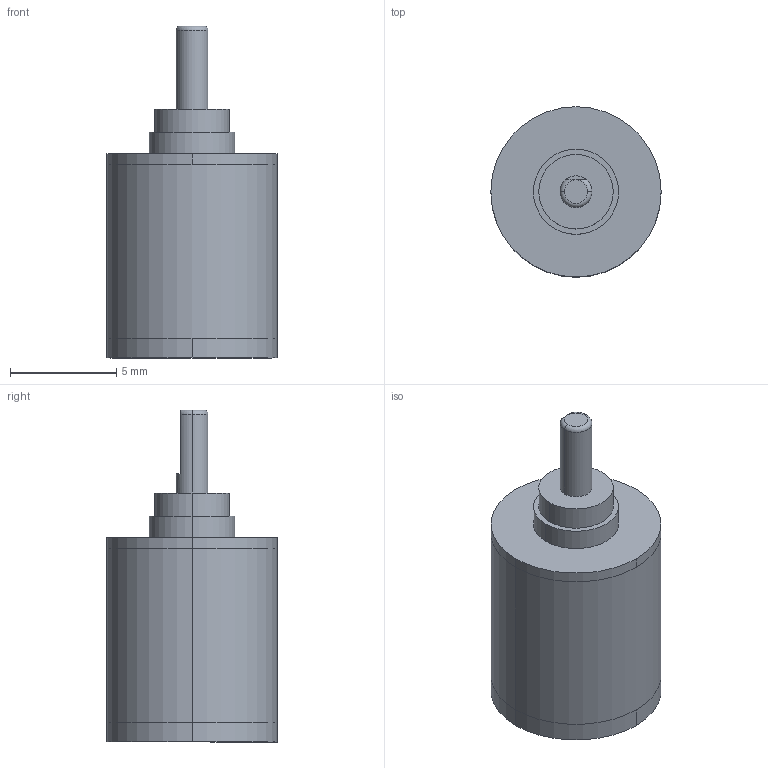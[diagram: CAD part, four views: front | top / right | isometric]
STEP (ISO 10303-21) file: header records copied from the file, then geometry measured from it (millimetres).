
FILE_DESCRIPTION (( 'STEP AP203' ), '1' );
FILE_NAME ('IG-08(I)-1stage.STEP', '2023-03-23T01:05:02', ( '' ), ( '' ), 'SwSTEP 2.0', 'SolidWorks 2019', '' );
FILE_SCHEMA (( 'CONFIG_CONTROL_DESIGN' ));
Length unit declared in the file: millimetre
Products named in the file (1): IG-08(I)-1stage
Bounding box: 8 x 8 x 15.6 mm (x, y, z)
Volume: 558.4 mm3; surface area: 658.1 mm2
Topology: 3 solids, 3 shells, 35 faces, 66 edges, 43 vertices
Faces by surface type: cylinder 18, plane 14, torus 3
Entity records: 982 total; most frequent: DIRECTION 179, CARTESIAN_POINT 159, ORIENTED_EDGE 132, AXIS2_PLACEMENT_3D 79, EDGE_CURVE 66, CIRCLE 43, VERTEX_POINT 43, EDGE_LOOP 41
